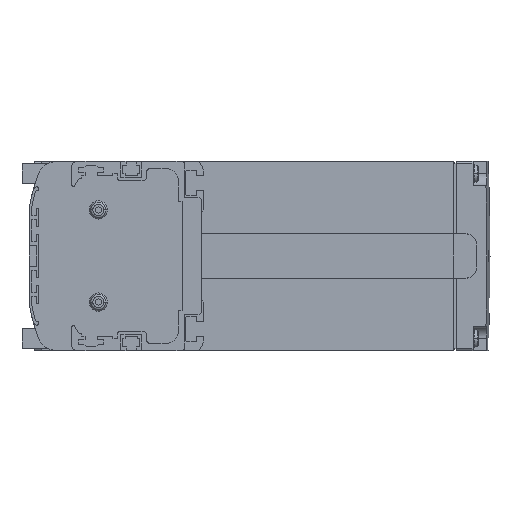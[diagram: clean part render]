
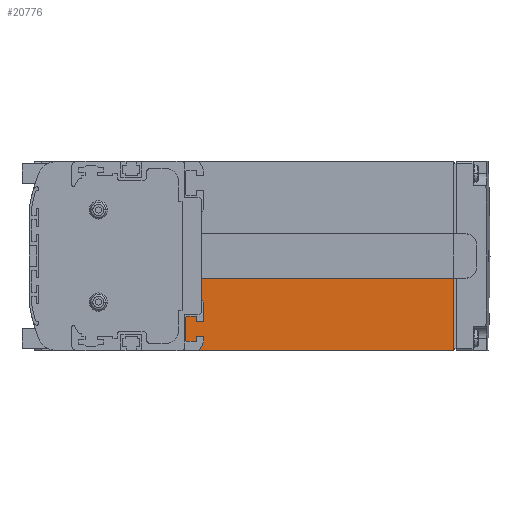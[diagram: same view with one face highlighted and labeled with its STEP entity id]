
A CAD part, left-side view. The second image highlights one B-rep face of the part: STEP entity #20776.
In plain terms, the highlighted planar face has unit normal (-1, 0, 0).
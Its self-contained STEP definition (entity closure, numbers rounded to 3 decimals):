
#1048=DIRECTION('',(0.,0.,1.));
#1049=VECTOR('',#1048,29.9);
#1050=CARTESIAN_POINT('',(3.,-103.,-39.));
#1051=LINE('',#1050,#1049);
#1294=DIRECTION('',(0.,1.,0.));
#1295=VECTOR('',#1294,112.);
#1296=CARTESIAN_POINT('',(3.,-103.,-39.));
#1297=LINE('',#1296,#1295);
#4364=DIRECTION('',(0.,1.,0.));
#4365=VECTOR('',#4364,104.);
#4366=CARTESIAN_POINT('',(3.,-103.,-9.1));
#4367=LINE('',#4366,#4365);
#5710=DIRECTION('',(0.,0.,1.));
#5711=VECTOR('',#5710,13.9);
#5712=CARTESIAN_POINT('',(3.,1.,-23.));
#5713=LINE('',#5712,#5711);
#5874=CARTESIAN_POINT('',(3.,2.,-23.));
#5875=DIRECTION('',(-1.,0.,0.));
#5876=DIRECTION('',(0.,0.,-1.));
#5877=AXIS2_PLACEMENT_3D('',#5874,#5875,#5876);
#5887=DIRECTION('',(0.,1.,0.));
#5888=VECTOR('',#5887,6.);
#5889=CARTESIAN_POINT('',(3.,2.,-24.));
#5890=LINE('',#5889,#5888);
#5891=DIRECTION('',(0.,0.,-1.));
#5892=VECTOR('',#5891,14.);
#5893=CARTESIAN_POINT('',(3.,8.,-24.));
#5894=LINE('',#5893,#5892);
#5899=CARTESIAN_POINT('',(3.,9.,-38.));
#5900=DIRECTION('',(-1.,0.,0.));
#5901=DIRECTION('',(0.,0.,-1.));
#5902=AXIS2_PLACEMENT_3D('',#5899,#5900,#5901);
#15311=CARTESIAN_POINT('',(3.,-103.,-39.));
#15312=VERTEX_POINT('',#15311);
#15313=CARTESIAN_POINT('',(3.,-103.,-9.1));
#15314=VERTEX_POINT('',#15313);
#18616=CARTESIAN_POINT('',(3.,1.,-23.));
#18617=CARTESIAN_POINT('',(3.,1.,-9.1));
#18618=VERTEX_POINT('',#18616);
#18619=VERTEX_POINT('',#18617);
#18664=CARTESIAN_POINT('',(3.,2.,-24.));
#18665=VERTEX_POINT('',#18664);
#18666=CARTESIAN_POINT('',(3.,8.,-24.));
#18667=VERTEX_POINT('',#18666);
#18668=CARTESIAN_POINT('',(3.,8.,-38.));
#18669=VERTEX_POINT('',#18668);
#18670=CARTESIAN_POINT('',(3.,9.,-39.));
#18671=VERTEX_POINT('',#18670);
#20754=CARTESIAN_POINT('',(3.,48.25,0.));
#20755=DIRECTION('',(1.,0.,0.));
#20756=DIRECTION('',(0.,1.,0.));
#20757=AXIS2_PLACEMENT_3D('',#20754,#20755,#20756);
#20758=PLANE('',#20757);
#20760=ORIENTED_EDGE('',*,*,#20759,.T.);
#20762=ORIENTED_EDGE('',*,*,#20761,.F.);
#20763=ORIENTED_EDGE('',*,*,#19905,.F.);
#20765=ORIENTED_EDGE('',*,*,#20764,.T.);
#20767=ORIENTED_EDGE('',*,*,#20766,.T.);
#20769=ORIENTED_EDGE('',*,*,#20768,.F.);
#20771=ORIENTED_EDGE('',*,*,#20770,.F.);
#20773=ORIENTED_EDGE('',*,*,#20772,.T.);
#20774=EDGE_LOOP('',(#20760,#20762,#20763,#20765,#20767,#20769,#20771,#20773));
#20775=FACE_OUTER_BOUND('',#20774,.F.);
#20776=ADVANCED_FACE('',(#20775),#20758,.F.);
#5878=CIRCLE('',#5877,1.);
#5903=CIRCLE('',#5902,1.);
#19905=EDGE_CURVE('',#15312,#15314,#1051,.T.);
#20759=EDGE_CURVE('',#18618,#18619,#5713,.T.);
#20761=EDGE_CURVE('',#15314,#18619,#4367,.T.);
#20764=EDGE_CURVE('',#15312,#18671,#1297,.T.);
#20766=EDGE_CURVE('',#18671,#18669,#5903,.T.);
#20768=EDGE_CURVE('',#18667,#18669,#5894,.T.);
#20770=EDGE_CURVE('',#18665,#18667,#5890,.T.);
#20772=EDGE_CURVE('',#18665,#18618,#5878,.T.);
